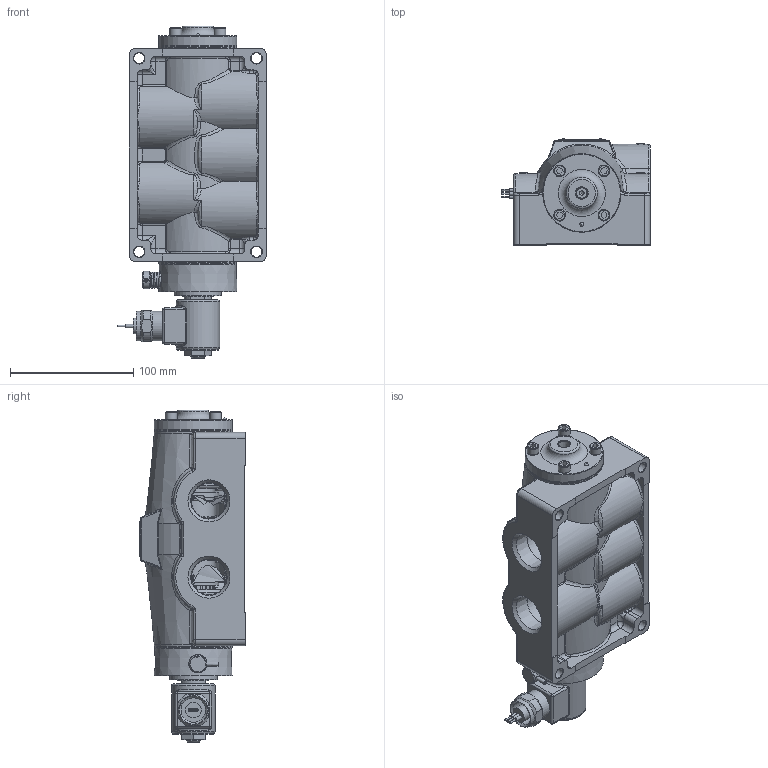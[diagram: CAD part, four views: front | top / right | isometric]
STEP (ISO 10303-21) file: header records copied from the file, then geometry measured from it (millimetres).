
FILE_DESCRIPTION(/* description */ (''),/* implementation_level */ '2;1');
FILE_NAME(/* name */ 'D:\Website Files\stp\Valves\Classic\SR\SR8MON.stp',/* time_stamp */ '2016-03-08T20:32:11-05:00',/* author */ ('RMcKenna'),/* organization */ (''),/* preprocessor_version */ 'ST-DEVELOPER v15.6',/* originating_system */ 'Autodesk Inventor 2015',/* authorisation */ '');
FILE_SCHEMA (('AUTOMOTIVE_DESIGN { 1 0 10303 214 3 1 1 }'));
Products named in the file (1): Part65
Bounding box: 120.56 x 86.28 x 269.42 mm (x, y, z)
Volume: 1055243.7 mm3; surface area: 210848.5 mm2
Topology: 2 solids, 28 shells, 2142 faces, 5065 edges, 3065 vertices
Faces by surface type: plane 695, cylinder 497, cone 341, bspline 331, torus 189, sphere 89
Full cylindrical faces by diameter (mm): 1.041 x1, 1.321 x2, 1.346 x3, 2.07 x2, 2.261 x2, 2.35 x1, 2.381 x1, 2.718 x2, 2.778 x2, 3.048 x1, 3.175 x6, 3.302 x1, 3.962 x5, 4.978 x8, 5.639 x1, 6.35 x8, 6.629 x2, 6.934 x1, 7.137 x6, 7.144 x8, 8.712 x4, 9.144 x1, 9.462 x2, 9.474 x4, 9.525 x9, 9.83 x1, 11.43 x1, 11.836 x2, 12.598 x1, 12.7 x2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
Entity records: 85888 total; most frequent: CARTESIAN_POINT 38852, ORIENTED_EDGE 9198, DIRECTION 8814, EDGE_CURVE 4597, AXIS2_PLACEMENT_3D 3610, VERTEX_POINT 2955, EDGE_LOOP 2644, FACE_OUTER_BOUND 2142
